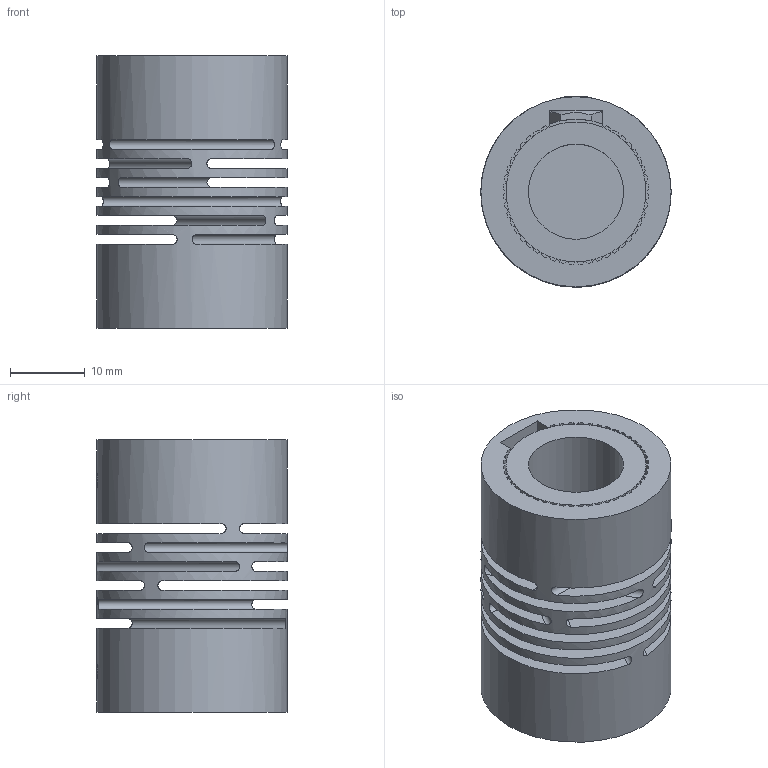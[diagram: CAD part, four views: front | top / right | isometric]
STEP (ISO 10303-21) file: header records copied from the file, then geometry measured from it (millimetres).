
FILE_DESCRIPTION((''),'2;1');
FILE_NAME('H:\Apps\CAD\FILE DRAWINGS\Product Development\Customer Requested Models\636.25.stp','2012-10-19T12:44:34',('Tom.Clinch'),(''),'Autodesk Inventor 2013','Autodesk Inventor 2013','');
FILE_SCHEMA(('AUTOMOTIVE_DESIGN { 1 0 10303 214 1 1 1 1 }'));
Length unit declared in the file: millimetre
Products named in the file (1): Part5
Bounding box: 25.4 x 25.4 x 36.4 mm (x, y, z)
Volume: 12047.7 mm3; surface area: 11009.9 mm2
Topology: 1 solids, 43 shells, 1089 faces, 2523 edges, 1352 vertices
Faces by surface type: plane 706, cylinder 371, cone 12
Full cylindrical faces by diameter (mm): 12.7 x2, 25.4 x1
Entity records: 31094 total; most frequent: CARTESIAN_POINT 5510, DIRECTION 5322, ORIENTED_EDGE 4960, EDGE_CURVE 2480, AXIS2_PLACEMENT_3D 1852, VECTOR 1618, LINE 1618, VERTEX_POINT 1330
